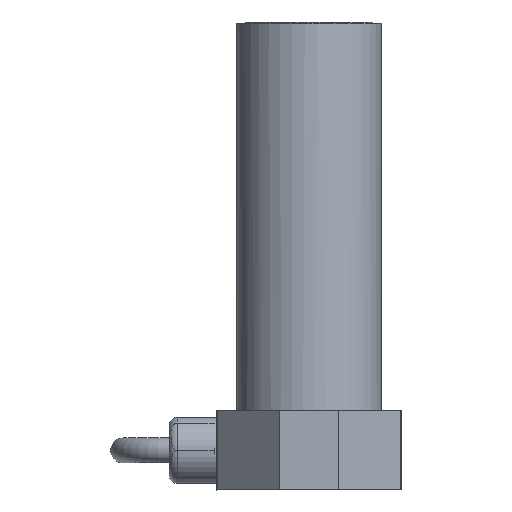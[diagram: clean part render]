
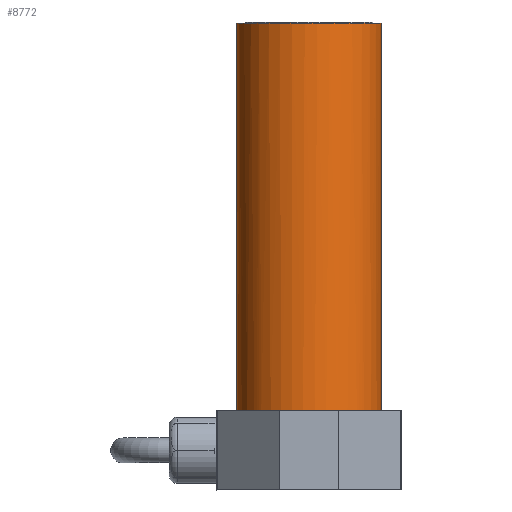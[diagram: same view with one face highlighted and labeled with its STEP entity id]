
A CAD part, left-side view. The second image highlights one B-rep face of the part: STEP entity #8772.
In plain terms, the highlighted cylindrical face has radius 17.462 mm (diameter 34.925 mm), a full revolution.
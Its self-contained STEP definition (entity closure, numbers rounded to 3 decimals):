
#466=LINE('',#12650,#1234);
#1234=VECTOR('',#10174,17.463);
#1979=CYLINDRICAL_SURFACE('',#9327,17.463);
#2070=FACE_OUTER_BOUND('',#2564,.T.);
#2564=EDGE_LOOP('',(#5595,#5596,#5597,#5598,#5599,#5600,#5601,#5602));
#3128=CIRCLE('',#9325,17.463);
#3130=CIRCLE('',#9328,17.463);
#3131=CIRCLE('',#9329,17.463);
#3132=CIRCLE('',#9330,17.463);
#3133=CIRCLE('',#9331,17.463);
#3134=CIRCLE('',#9332,17.463);
#3418=VERTEX_POINT('',#12644);
#3420=VERTEX_POINT('',#12649);
#3421=VERTEX_POINT('',#12651);
#3422=VERTEX_POINT('',#12653);
#3423=VERTEX_POINT('',#12655);
#3424=VERTEX_POINT('',#12657);
#4282=EDGE_CURVE('',#3418,#3418,#3128,.T.);
#4284=EDGE_CURVE('',#3418,#3420,#466,.T.);
#4285=EDGE_CURVE('',#3421,#3420,#3130,.T.);
#4286=EDGE_CURVE('',#3422,#3421,#3131,.T.);
#4287=EDGE_CURVE('',#3423,#3422,#3132,.T.);
#4288=EDGE_CURVE('',#3424,#3423,#3133,.T.);
#4289=EDGE_CURVE('',#3420,#3424,#3134,.T.);
#5595=ORIENTED_EDGE('',*,*,#4282,.T.);
#5596=ORIENTED_EDGE('',*,*,#4284,.T.);
#5597=ORIENTED_EDGE('',*,*,#4285,.F.);
#5598=ORIENTED_EDGE('',*,*,#4286,.F.);
#5599=ORIENTED_EDGE('',*,*,#4287,.F.);
#5600=ORIENTED_EDGE('',*,*,#4288,.F.);
#5601=ORIENTED_EDGE('',*,*,#4289,.F.);
#5602=ORIENTED_EDGE('',*,*,#4284,.F.);
#8772=ADVANCED_FACE('',(#2070),#1979,.T.);
#9325=AXIS2_PLACEMENT_3D('',#12645,#10168,#10169);
#9327=AXIS2_PLACEMENT_3D('',#12648,#10172,#10173);
#9328=AXIS2_PLACEMENT_3D('',#12652,#10175,#10176);
#9329=AXIS2_PLACEMENT_3D('',#12654,#10177,#10178);
#9330=AXIS2_PLACEMENT_3D('',#12656,#10179,#10180);
#9331=AXIS2_PLACEMENT_3D('',#12658,#10181,#10182);
#9332=AXIS2_PLACEMENT_3D('',#12659,#10183,#10184);
#10168=DIRECTION('center_axis',(0.,0.,
-1.));
#10169=DIRECTION('ref_axis',(-0.917,0.399,0.));
#10172=DIRECTION('center_axis',(0.,0.,
1.));
#10173=DIRECTION('ref_axis',(-0.917,0.399,0.));
#10174=DIRECTION('',(0.,0.,-1.));
#10175=DIRECTION('center_axis',(0.,0.,
-1.));
#10176=DIRECTION('ref_axis',(-0.917,0.399,0.));
#10177=DIRECTION('center_axis',(0.,0.,
-1.));
#10178=DIRECTION('ref_axis',(-0.917,0.399,0.));
#10179=DIRECTION('center_axis',(0.,0.,
-1.));
#10180=DIRECTION('ref_axis',(-0.917,0.399,0.));
#10181=DIRECTION('center_axis',(0.,0.,
-1.));
#10182=DIRECTION('ref_axis',(-0.917,0.399,0.));
#10183=DIRECTION('center_axis',(0.,0.,
-1.));
#10184=DIRECTION('ref_axis',(-0.917,0.399,0.));
#12644=CARTESIAN_POINT('',(16.014,-6.965,112.268));
#12645=CARTESIAN_POINT('Origin',(0.,0.,
112.268));
#12648=CARTESIAN_POINT('Origin',(0.,0.,
19.05));
#12649=CARTESIAN_POINT('',(16.014,-6.965,19.05));
#12650=CARTESIAN_POINT('',(16.014,-6.965,19.05));
#12651=CARTESIAN_POINT('',(-11.475,13.163,19.05));
#12652=CARTESIAN_POINT('Origin',(0.,0.,
19.05));
#12653=CARTESIAN_POINT('',(-13.163,11.475,19.05));
#12654=CARTESIAN_POINT('Origin',(0.,0.,
19.05));
#12655=CARTESIAN_POINT('',(-13.163,-11.475,19.05));
#12656=CARTESIAN_POINT('Origin',(0.,0.,
19.05));
#12657=CARTESIAN_POINT('',(-11.475,-13.163,19.05));
#12658=CARTESIAN_POINT('Origin',(0.,0.,
19.05));
#12659=CARTESIAN_POINT('Origin',(0.,0.,
19.05));
